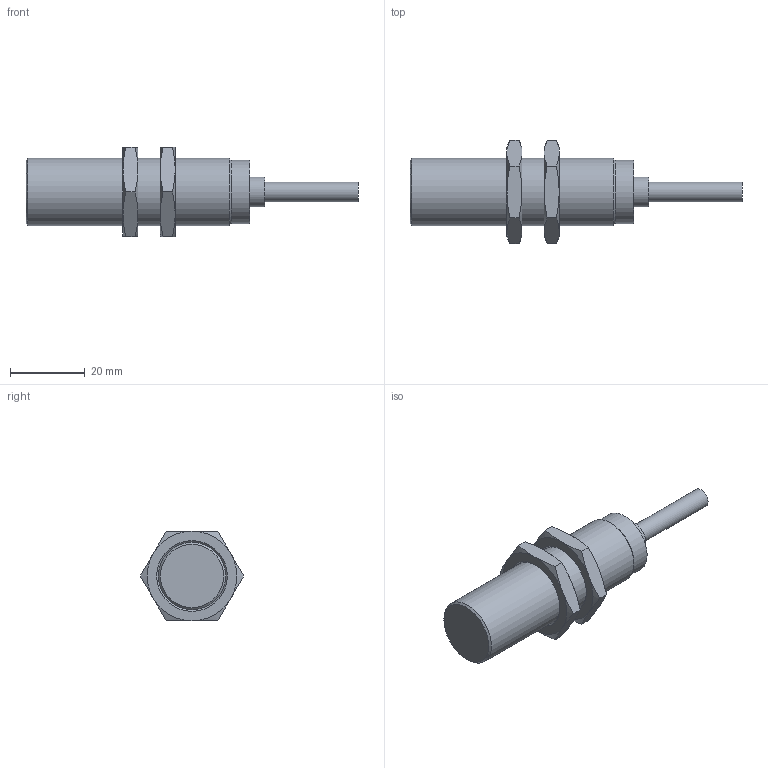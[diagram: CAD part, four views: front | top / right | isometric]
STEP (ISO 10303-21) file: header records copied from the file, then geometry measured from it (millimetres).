
FILE_DESCRIPTION((''),'2;1');
FILE_NAME('C:\TurckZip\Bi-M18-LiU.stp','2011-10-26T12:09:26',('IKOROL'),(''),'Autodesk Inventor 2010','Autodesk Inventor 2010','');
FILE_SCHEMA(('AUTOMOTIVE_DESIGN { 1 2 10303 214 0 1 1 1 }'));
Length unit declared in the file: millimetre
Products named in the file (1): Part1
Bounding box: 89 x 27.71 x 24 mm (x, y, z)
Volume: 17737.8 mm3; surface area: 5629.3 mm2
Topology: 1 solids, 1 shells, 56 faces, 119 edges, 71 vertices
Faces by surface type: cone 30, plane 20, cylinder 6
Full cylindrical faces by diameter (mm): 5.2 x1, 8 x1, 17 x1, 18 x3
Entity records: 1432 total; most frequent: CARTESIAN_POINT 319, DIRECTION 208, ORIENTED_EDGE 202, EDGE_CURVE 101, AXIS2_PLACEMENT_3D 98, EDGE_LOOP 74, VERTEX_POINT 65, STYLED_ITEM 57
